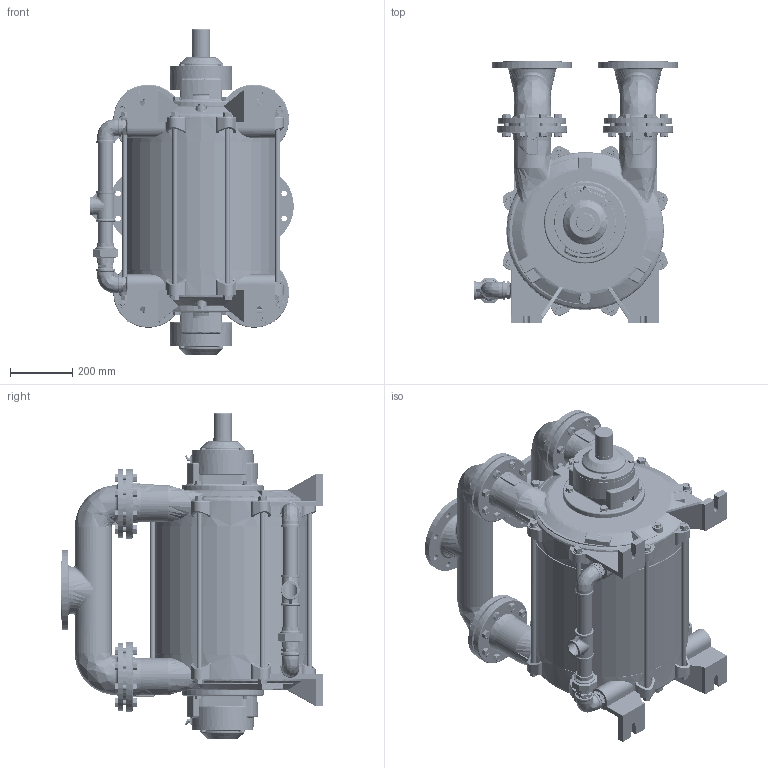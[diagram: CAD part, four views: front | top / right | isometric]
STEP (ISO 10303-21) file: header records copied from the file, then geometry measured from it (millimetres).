
FILE_DESCRIPTION (( 'STEP AP214' ), '1' );
FILE_NAME ('GMVT 410-400 MONTAJ.STEP', '2024-05-14T06:48:57', ( '' ), ( '' ), 'SwSTEP 2.0', 'SolidWorks 2024', '' );
FILE_SCHEMA (( 'AUTOMOTIVE_DESIGN' ));
Length unit declared in the file: millimetre
Products named in the file (1): GMVT 410-400 MONTAJ
Bounding box: 654.76 x 843 x 1047 mm (x, y, z)
Volume: 157539640.3 mm3; surface area: 5117785.6 mm2
Topology: 116 solids, 149 shells, 6228 faces, 15883 edges, 9930 vertices
Faces by surface type: cylinder 1659, plane 1613, bspline 1377, cone 1300, torus 252, sphere 27
Entity records: 561790 total; most frequent: CARTESIAN_POINT 427841, ORIENTED_EDGE 31454, DIRECTION 21201, EDGE_CURVE 15727, VERTEX_POINT 9928, AXIS2_PLACEMENT_3D 8545, B_SPLINE_CURVE_WITH_KNOTS 7838, EDGE_LOOP 6727
